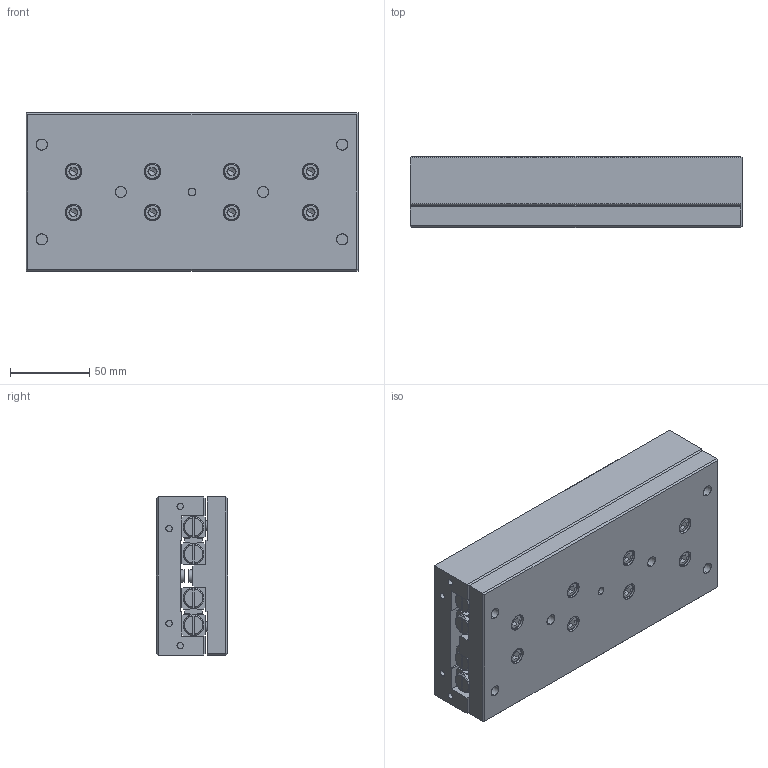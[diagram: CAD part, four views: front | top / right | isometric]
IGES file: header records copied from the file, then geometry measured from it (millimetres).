
Start section: SolidWorks IGES file using analytic representation for surfaces
Global section: file name: C:\Documents and Settings\IanO.IANOHOME\My Documents\Wix and Auto CAD Work\CAD Models\Parametric Models\Auto Models\L1020\L1020_IGES\L1020.100-210.igs; native system: SolidWorks 2009; preprocessor: SolidWorks 2009; author: IanO; date: 110922.162907; units: millimetre
Bounding box: 210 x 45 x 100 mm (x, y, z)
Surface area: 212505.1 mm2 (no closed solid volume)
Topology: 0 solids, 0 shells, 1366 faces, 19656 edges, 19616 vertices
Faces by surface type: bspline 862, revolution 504
